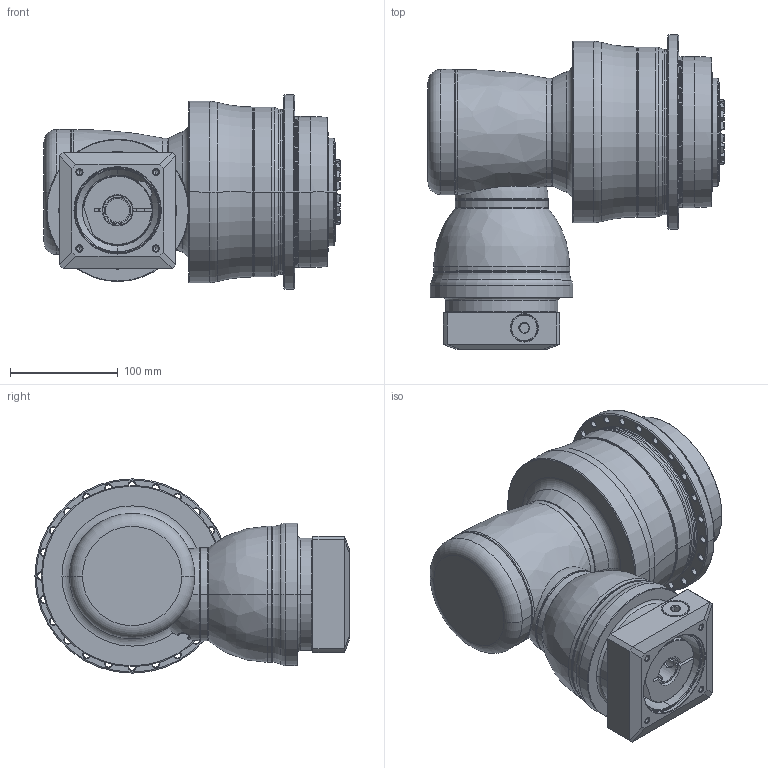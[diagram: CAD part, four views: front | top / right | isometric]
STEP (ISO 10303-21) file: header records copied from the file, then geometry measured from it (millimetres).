
FILE_DESCRIPTION((''),'2;1');
FILE_NAME('APCK140_3ST_24-P0409510201_ASM','2018-05-11T',('d01226'),(''),'PRO/ENGINEER BY PARAMETRIC TECHNOLOGY CORPORATION, 2008410','PRO/ENGINEER BY PARAMETRIC TECHNOLOGY CORPORATION, 2008410','');
FILE_SCHEMA(('CONFIG_CONTROL_DESIGN'));
Length unit declared in the file: millimetre
Products named in the file (13): P1008400002; P1832500001; P0278501003; P03595D0103; P1211500001; P1315400001; P1007401001; P1318410101; P0409510201; P0503500010; P0129451001; 21711418017; APCK140_3ST_24-P0409510201_ASM
Assembly tree (12 placements, depth 2):
  APCK140_3ST_24-P0409510201_ASM
    P1008400002
    P1832500001
    P0278501003
    P03595D0103
    P1211500001
    P1315400001
    P1007401001
    P1318410101
    P0409510201
    P0503500010
    P0129451001
    21711418017
Bounding box: 274.4 x 291 x 180 mm (x, y, z)
Volume: 5061251.6 mm3; surface area: 533145.5 mm2
Topology: 13 solids, 23 shells, 726 faces, 1705 edges, 1036 vertices
Faces by surface type: cylinder 224, cone 221, plane 133, torus 116, bspline 30, sphere 2
Entity records: 24132 total; most frequent: CARTESIAN_POINT 6999, DIRECTION 3840, ORIENTED_EDGE 3340, EDGE_CURVE 1691, AXIS2_PLACEMENT_3D 1683, VERTEX_POINT 1036, CIRCLE 952, EDGE_LOOP 833
